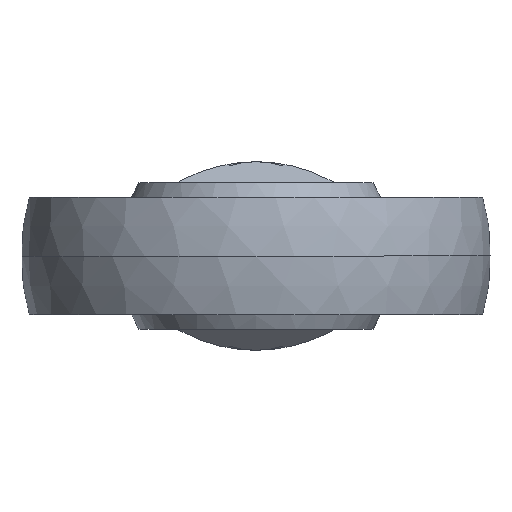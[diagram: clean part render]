
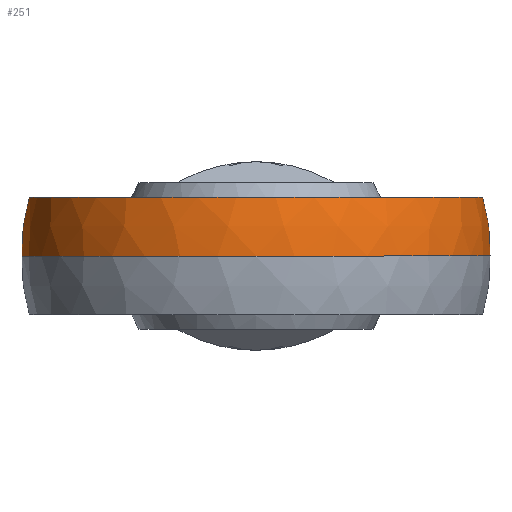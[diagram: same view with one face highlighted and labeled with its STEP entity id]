
A CAD part, left-side view. The second image highlights one B-rep face of the part: STEP entity #251.
In plain terms, the highlighted spherical face has radius 56 mm.
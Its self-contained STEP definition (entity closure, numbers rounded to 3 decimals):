
#251 = ADVANCED_FACE ( 'NONE', ( #757 ), #756, .T. ) ;
#252 = EDGE_LOOP ( 'NONE', ( #253, #257, #266, #269, #272 ) ) ;
#253 = ORIENTED_EDGE ( 'NONE', *, *, #254, .F. ) ;
#254 = EDGE_CURVE ( 'NONE', #255, #256, #751, .T. ) ;
#255 = VERTEX_POINT ( 'NONE', #807 ) ;
#256 = VERTEX_POINT ( 'NONE', #806 ) ;
#257 = ORIENTED_EDGE ( 'NONE', *, *, #258, .T. ) ;
#258 = EDGE_CURVE ( 'NONE', #255, #259, #805, .T. ) ;
#259 = VERTEX_POINT ( 'NONE', #800 ) ;
#266 = ORIENTED_EDGE ( 'NONE', *, *, #267, .F. ) ;
#267 = EDGE_CURVE ( 'NONE', #268, #259, #795, .T. ) ;
#268 = VERTEX_POINT ( 'NONE', #790 ) ;
#269 = ORIENTED_EDGE ( 'NONE', *, *, #270, .F. ) ;
#270 = EDGE_CURVE ( 'NONE', #271, #268, #789, .T. ) ;
#271 = VERTEX_POINT ( 'NONE', #784 ) ;
#272 = ORIENTED_EDGE ( 'NONE', *, *, #273, .F. ) ;
#273 = EDGE_CURVE ( 'NONE', #256, #271, #783, .T. ) ;
#521 = DIRECTION ( 'NONE',  ( 0., 1., 0. ) ) ;
#525 = DIRECTION ( 'NONE',  ( 1., 0., 0. ) ) ;
#751 = CIRCLE ( 'NONE', #811, 56. ) ;
#752 = DIRECTION ( 'NONE',  ( 0., 1., 0. ) ) ;
#753 = DIRECTION ( 'NONE',  ( 0., 0., 1. ) ) ;
#754 = CARTESIAN_POINT ( 'NONE',  ( 0., 0., 0. ) ) ;
#755 = AXIS2_PLACEMENT_3D ( 'NONE', #754, #753, #752 ) ;
#756 = SPHERICAL_SURFACE ( 'NONE', #755, 56. ) ;
#757 = FACE_OUTER_BOUND ( 'NONE', #252, .T. ) ;
#781 = CARTESIAN_POINT ( 'NONE',  ( 30.32, 0., 0. ) ) ;
#782 = AXIS2_PLACEMENT_3D ( 'NONE', #781, #525, #521 ) ;
#783 = CIRCLE ( 'NONE', #782, 47.082 ) ;
#784 = CARTESIAN_POINT ( 'NONE',  ( 30.32, 44.952, 14. ) ) ;
#785 = DIRECTION ( 'NONE',  ( -1., 0., 0. ) ) ;
#786 = DIRECTION ( 'NONE',  ( 0., 0., 1. ) ) ;
#787 = CARTESIAN_POINT ( 'NONE',  ( 0., 0., 14. ) ) ;
#788 = AXIS2_PLACEMENT_3D ( 'NONE', #787, #786, #785 ) ;
#789 = CIRCLE ( 'NONE', #788, 54.222 ) ;
#790 = CARTESIAN_POINT ( 'NONE',  ( 30.32, -44.952, 14. ) ) ;
#791 = DIRECTION ( 'NONE',  ( 0., 1., 0. ) ) ;
#792 = DIRECTION ( 'NONE',  ( 1., 0., 0. ) ) ;
#793 = CARTESIAN_POINT ( 'NONE',  ( 30.32, 0., 0. ) ) ;
#794 = AXIS2_PLACEMENT_3D ( 'NONE', #793, #792, #791 ) ;
#795 = CIRCLE ( 'NONE', #794, 47.082 ) ;
#800 = CARTESIAN_POINT ( 'NONE',  ( 30.32, -47.082, 0. ) ) ;
#801 = DIRECTION ( 'NONE',  ( 0., -1., 0. ) ) ;
#802 = DIRECTION ( 'NONE',  ( 0., 0., 1. ) ) ;
#803 = CARTESIAN_POINT ( 'NONE',  ( 0., 0., 0. ) ) ;
#804 = AXIS2_PLACEMENT_3D ( 'NONE', #803, #802, #801 ) ;
#805 = CIRCLE ( 'NONE', #804, 56. ) ;
#806 = CARTESIAN_POINT ( 'NONE',  ( 30.32, 47.082, 0. ) ) ;
#807 = CARTESIAN_POINT ( 'NONE',  ( -56., 0., 0. ) ) ;
#808 = DIRECTION ( 'NONE',  ( -1., 0., 0. ) ) ;
#809 = DIRECTION ( 'NONE',  ( 0., 0., -1. ) ) ;
#810 = CARTESIAN_POINT ( 'NONE',  ( 0., 0., 0. ) ) ;
#811 = AXIS2_PLACEMENT_3D ( 'NONE', #810, #809, #808 ) ;
